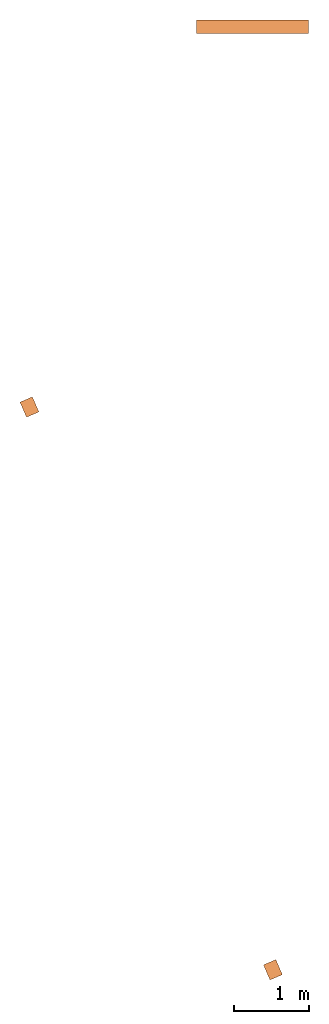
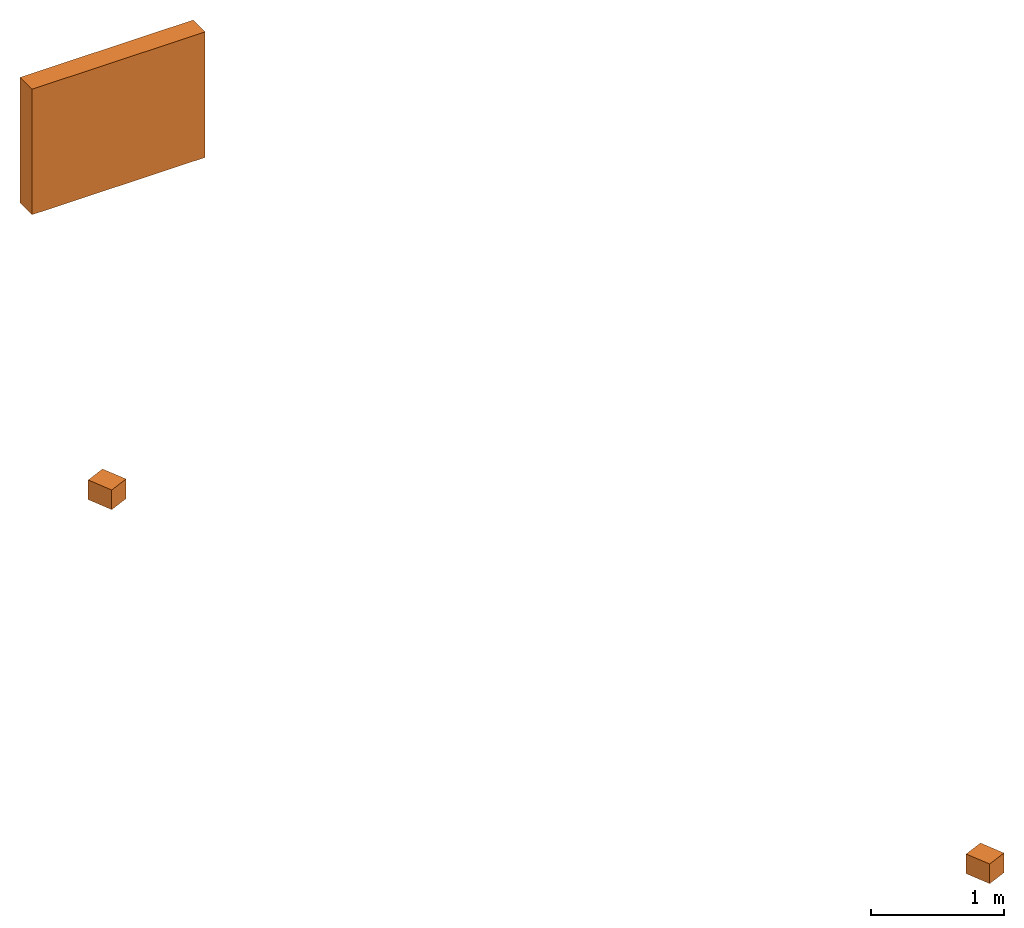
# One storey: 3 proxies.
"""IFC2X3 building model written with IfcOpenShell, lengths in centimetres."""

from ifc_helpers import new_model, entity, si_unit, converted_unit, derived_unit, direction, frame, frame_2d, origin, place, context, subcontext, project, spatial, rectangle, extrude, source, transform, mapped, material, type_object, type_shapes, element, save


model = new_model("IFC2X3")

# Units and contexts
model_context = context("Model", 3, precision=0.001, world=origin(), true_north=direction((6.12303176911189e-17, 1.0)))
body_context = subcontext(model_context, "Body", "Model", "MODEL_VIEW")
ifc_project = project(units=[si_unit("LENGTHUNIT", "METRE", prefix="CENTI"), si_unit("AREAUNIT", "SQUARE_METRE"), si_unit("VOLUMEUNIT", "CUBIC_METRE"), converted_unit("PLANEANGLEUNIT", "DEGREE", entity("IfcRatioMeasure", 0.0174532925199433), si_unit("PLANEANGLEUNIT", "RADIAN"), dimensions=[0, 0, 0, 0, 0, 0, 0]), si_unit("MASSUNIT", "GRAM", prefix="KILO"), derived_unit("MASSDENSITYUNIT", [(si_unit("MASSUNIT", "GRAM", prefix="KILO"), 1), (si_unit("LENGTHUNIT", "METRE"), -3)]), si_unit("TIMEUNIT", "SECOND"), si_unit("FREQUENCYUNIT", "HERTZ"), si_unit("THERMODYNAMICTEMPERATUREUNIT", "DEGREE_CELSIUS"), derived_unit("THERMALTRANSMITTANCEUNIT", [(si_unit("MASSUNIT", "GRAM", prefix="KILO"), 1), (si_unit("THERMODYNAMICTEMPERATUREUNIT", "KELVIN"), -1), (si_unit("TIMEUNIT", "SECOND"), -3)]), derived_unit("VOLUMETRICFLOWRATEUNIT", [(si_unit("LENGTHUNIT", "METRE"), 3), (si_unit("TIMEUNIT", "SECOND"), -1)]), si_unit("ELECTRICCURRENTUNIT", "AMPERE"), si_unit("ELECTRICVOLTAGEUNIT", "VOLT"), si_unit("POWERUNIT", "WATT"), si_unit("FORCEUNIT", "NEWTON"), si_unit("ILLUMINANCEUNIT", "LUX"), si_unit("LUMINOUSFLUXUNIT", "LUMEN"), si_unit("LUMINOUSINTENSITYUNIT", "CANDELA"), derived_unit("USERDEFINED", [(si_unit("MASSUNIT", "GRAM", prefix="KILO"), -1), (si_unit("LENGTHUNIT", "METRE"), -2), (si_unit("TIMEUNIT", "SECOND"), 3), (si_unit("LUMINOUSFLUXUNIT", "LUMEN"), 1)]), derived_unit("LINEARVELOCITYUNIT", [(si_unit("LENGTHUNIT", "METRE"), 1), (si_unit("TIMEUNIT", "SECOND"), -1)]), si_unit("PRESSUREUNIT", "PASCAL"), derived_unit("USERDEFINED", [(si_unit("LENGTHUNIT", "METRE"), -2), (si_unit("MASSUNIT", "GRAM", prefix="KILO"), 1), (si_unit("TIMEUNIT", "SECOND"), -2)])], contexts=[model_context])

# Site, building, storey
site_placement = place(None, origin())
site = spatial("IfcSite", under=ifc_project, at=site_placement, Name="Default", CompositionType="ELEMENT")
building_placement = place(site_placement, origin())
building = spatial("IfcBuilding", under=site, at=building_placement, Name="CAGE 03", CompositionType="ELEMENT")
storey_placement = place(building_placement, frame((0.0, 0.0, -39.0)))
storey = spatial("IfcBuildingStorey", under=building, at=storey_placement, Name="+3.61", CompositionType="ELEMENT", Elevation=-39.0000000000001)

# Proxies
ifc_material = material(Name="BBGO_Résa")
building_element_proxy_type_1 = type_object("IfcBuildingElementProxyType", Name="Réservation", PredefinedType="NOTDEFINED", material=ifc_material)
shared_shape_1 = source(origin(), body_context, "Body", "SweptSolid", [
    extrude(rectangle(XDim=18.0000000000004, YDim=21.9999999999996, at=frame_2d((-1.98951966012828e-13, 8.5265128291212e-14), x_axis=(1.0, 0.0))), frame((2980.82065379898, 4519.2287504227, 160.0), z_axis=(0.0, 0.0, 1.0), x_axis=(0.917772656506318, 0.397106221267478, 0.0)), (0.0, 0.0, 1.0), 18.0),
])
type_shapes(building_element_proxy_type_1, [shared_shape_1])
proxy_1_placement = place(storey_placement, frame((0.0, 0.0, 39.0)))
element("IfcBuildingElementProxy", 1, at=proxy_1_placement, inside=storey, type_object=building_element_proxy_type_1, material=ifc_material, Name="BBGO-Résa rect et circ:Réservation", ObjectType="Réservation", context=body_context, shape_type="MappedRepresentation", body=[
    mapped(shared_shape_1, transform((0.0, 0.0, 0.0), scale=1.0)),
])
building_element_proxy_type_2 = type_object("IfcBuildingElementProxyType", Name="Réservation", PredefinedType="NOTDEFINED", material=ifc_material)
shared_shape_2 = source(origin(), body_context, "Body", "SweptSolid", [
    extrude(rectangle(XDim=18.0000000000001, YDim=22.0, at=frame_2d((-2.8510527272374e-13, -1.12798659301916e-13), x_axis=(1.0, 0.0))), frame((3306.64630834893, 3766.19628575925, 160.0), z_axis=(0.0, 0.0, 1.0), x_axis=(0.917772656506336, 0.397106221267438, 0.0)), (0.0, 0.0, 1.0), 18.0),
])
type_shapes(building_element_proxy_type_2, [shared_shape_2])
proxy_2_placement = place(storey_placement, frame((0.0, 0.0, 39.0)))
element("IfcBuildingElementProxy", 2, at=proxy_2_placement, inside=storey, type_object=building_element_proxy_type_2, material=ifc_material, Name="BBGO-Résa rect et circ:Réservation", ObjectType="Réservation", context=body_context, shape_type="MappedRepresentation", body=[
    mapped(shared_shape_2, transform((0.0, 0.0, 0.0), scale=1.0)),
])
building_element_proxy_type_3 = type_object("IfcBuildingElementProxyType", Name="Réservation", PredefinedType="NOTDEFINED", material=ifc_material)
shared_shape_3 = source(origin(), body_context, "Body", "SweptSolid", [
    extrude(rectangle(XDim=17.9999999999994, YDim=150.0, at=frame_2d((8.65973959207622e-13, 2.1316282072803e-13), x_axis=(1.0, 0.0))), frame((3279.36582014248, 5028.16066607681, 39.0), z_axis=(0.0, 0.0, 1.0), x_axis=(0.0, 1.0, 0.0)), (0.0, 0.0, 1.0), 115.0),
])
type_shapes(building_element_proxy_type_3, [shared_shape_3])
proxy_3_placement = place(storey_placement, frame((0.0, 0.0, 39.0)))
element("IfcBuildingElementProxy", 3, at=proxy_3_placement, inside=storey, type_object=building_element_proxy_type_3, material=ifc_material, Name="BBGO-Résa rect et circ:Réservation", ObjectType="Réservation", context=body_context, shape_type="MappedRepresentation", body=[
    mapped(shared_shape_3, transform((0.0, 0.0, 0.0), scale=1.0)),
])

save(model, "model.ifc")
